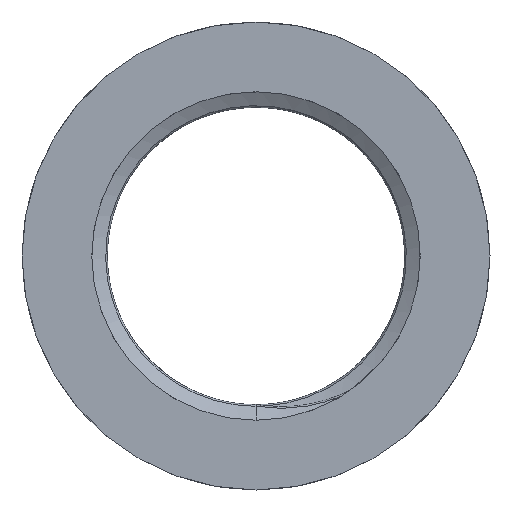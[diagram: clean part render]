
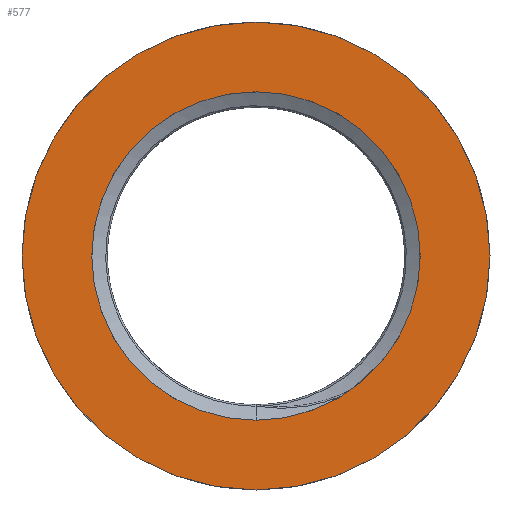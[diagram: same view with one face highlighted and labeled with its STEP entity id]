
A CAD part, front view. The second image highlights one B-rep face of the part: STEP entity #577.
In plain terms, the highlighted planar face has unit normal (0, -1, 0).
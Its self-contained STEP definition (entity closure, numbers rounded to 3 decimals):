
#572 = EDGE_LOOP ( 'NONE', ( #1365 ) ) ;
#577 = ADVANCED_FACE ( 'NONE', ( #3809, #895 ), #3156, .F. ) ;
#895 = FACE_BOUND ( 'NONE', #572, .T. ) ;
#1165 = VERTEX_POINT ( 'NONE', #1501 ) ;
#1365 = ORIENTED_EDGE ( 'NONE', *, *, #3807, .T. ) ;
#1390 = CARTESIAN_POINT ( 'NONE',  ( 0., 0., 0. ) ) ;
#1501 = CARTESIAN_POINT ( 'NONE',  ( 0., 0., 13. ) ) ;
#1504 = EDGE_CURVE ( 'NONE', #1165, #1165, #4206, .T. ) ;
#1529 = AXIS2_PLACEMENT_3D ( 'NONE', #1390, #1964, #2996 ) ;
#1540 = CARTESIAN_POINT ( 'NONE',  ( 0., 0., 0. ) ) ;
#1731 = CIRCLE ( 'NONE', #4129, 9.125 ) ;
#1761 = CARTESIAN_POINT ( 'NONE',  ( 0., 0., 9.125 ) ) ;
#1842 = DIRECTION ( 'NONE',  ( 0., 0., 1. ) ) ;
#1964 = DIRECTION ( 'NONE',  ( 0., 1., 0. ) ) ;
#2298 = DIRECTION ( 'NONE',  ( 0., 0., 1. ) ) ;
#2434 = CARTESIAN_POINT ( 'NONE',  ( 0., 0., 0. ) ) ;
#2466 = VERTEX_POINT ( 'NONE', #1761 ) ;
#2493 = AXIS2_PLACEMENT_3D ( 'NONE', #1540, #2938, #2298 ) ;
#2625 = ORIENTED_EDGE ( 'NONE', *, *, #1504, .F. ) ;
#2938 = DIRECTION ( 'NONE',  ( 0., 1., 0. ) ) ;
#2996 = DIRECTION ( 'NONE',  ( 0., 0., 1. ) ) ;
#3156 = PLANE ( 'NONE',  #2493 ) ;
#3487 = EDGE_LOOP ( 'NONE', ( #2625 ) ) ;
#3743 = DIRECTION ( 'NONE',  ( 0., 1., 0. ) ) ;
#3807 = EDGE_CURVE ( 'NONE', #2466, #2466, #1731, .T. ) ;
#3809 = FACE_OUTER_BOUND ( 'NONE', #3487, .T. ) ;
#4129 = AXIS2_PLACEMENT_3D ( 'NONE', #2434, #3743, #1842 ) ;
#4206 = CIRCLE ( 'NONE', #1529, 13. ) ;
